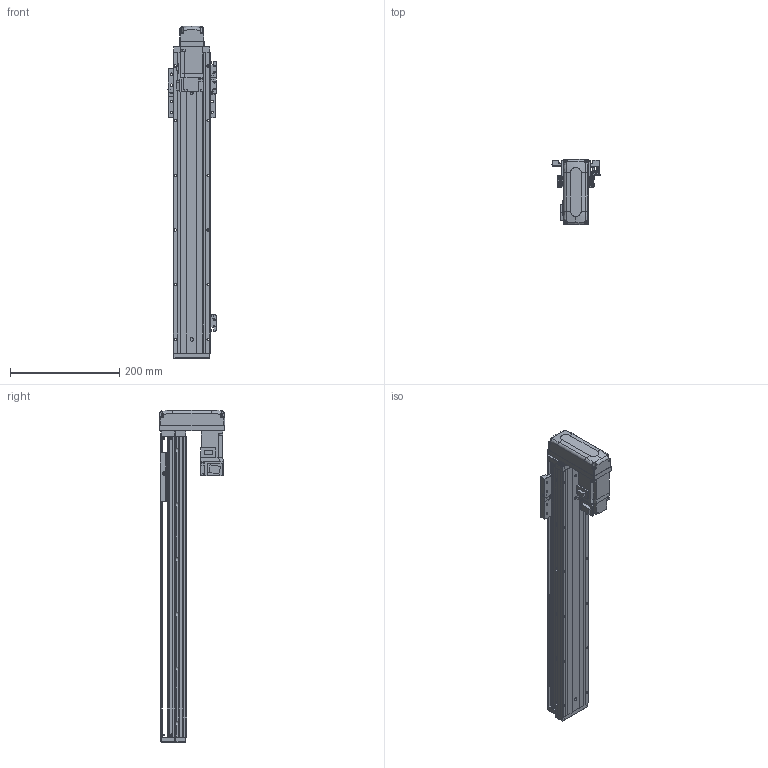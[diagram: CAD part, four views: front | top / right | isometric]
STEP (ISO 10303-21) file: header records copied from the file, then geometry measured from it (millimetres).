
FILE_DESCRIPTION (( 'STEP AP203' ), '1' );
FILE_NAME ('KTHAL60-400-BM-M10-C4L.step', '2022-03-19T08:41:04', ( '微软用户' ), ( '微软中国' ), 'SwSTEP 2.0', 'SolidWorks 2020', '' );
FILE_SCHEMA (( 'CONFIG_CONTROL_DESIGN' ));
Length unit declared in the file: millimetre
Products named in the file (18): EE_SX911P_R; HG-KR13（三菱）; KTHA60-001_550; CTHA60-017; CTHA60-015-2_CTHA60-015-2; KTHLA60-002; CTHA60-021; CTHA60-033; KTHA60-004; GBT 70.1-M4×16; GBT 70.1-M3×15; KTHA60-005; GBT77-2000M3-3; KTHAL60-400-BM-M10-C4L; GB¨uT 70.2-M3¡Á5_M3¡Á6; GBT 70.1-M3℅6; GBT 70.3-M3℅6; CTHA60-016
Assembly tree (51 placements, depth 2):
  KTHAL60-400-BM-M10-C4L
    KTHA60-001_550
    KTHLA60-002
    KTHA60-004
    KTHA60-005
    GB¨uT 70.2-M3¡Á5_M3¡Á6  x5
    GBT 70.3-M3℅6  x4
    EE_SX911P_R  x3
    CTHA60-017  x3
    CTHA60-021  x2
    GBT 70.1-M4×16  x10
    GBT77-2000M3-3  x6
    GBT 70.1-M3℅6  x6
    CTHA60-016
    HG-KR13（三菱）
    CTHA60-015-2_CTHA60-015-2
    CTHA60-033
    GBT 70.1-M3×15  x4
Bounding box: 87.82 x 120 x 607 mm (x, y, z)
Volume: 1370947.4 mm3; surface area: 338055.1 mm2
Topology: 54 solids, 54 shells, 2275 faces, 5387 edges, 3305 vertices
Faces by surface type: plane 1300, cylinder 553, cone 284, torus 98, bspline 26, sphere 14
Entity records: 39347 total; most frequent: CARTESIAN_POINT 7448, DIRECTION 6133, ORIENTED_EDGE 5918, EDGE_CURVE 2959, AXIS2_PLACEMENT_3D 2057, VECTOR 2019, LINE 2019, VERTEX_POINT 1854
